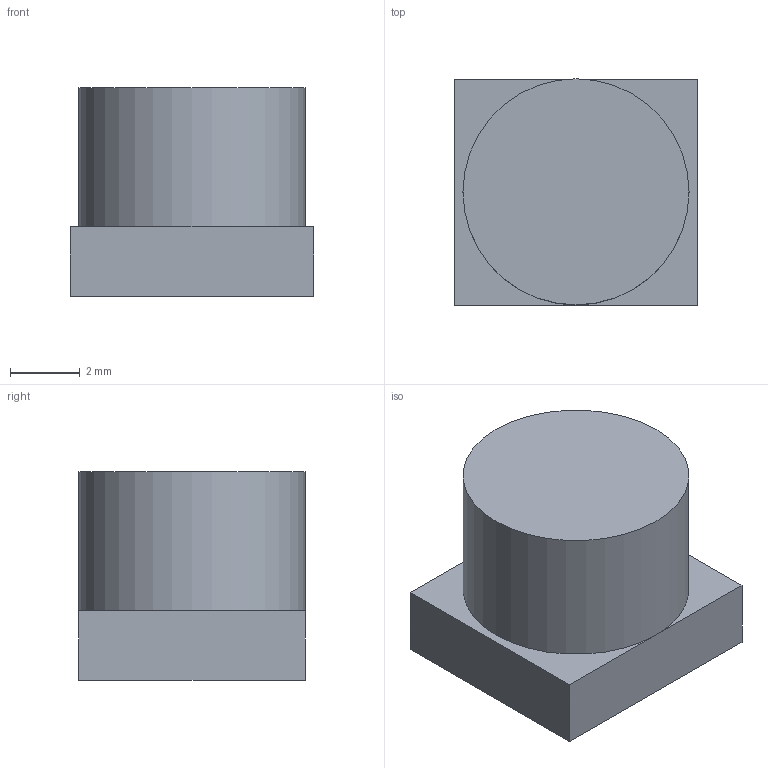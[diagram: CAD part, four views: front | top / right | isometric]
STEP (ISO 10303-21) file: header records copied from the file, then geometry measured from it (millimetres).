
FILE_DESCRIPTION(/* description */ ('STEP AP242 Edition 2','CAx-IF Rec.Pracs.---Representation and Presentation of Product Manufacturing Information (PMI)---4.0---2014-10-13','CAx-IF Rec.Pracs.---3D Tessellated Geometry---0.4---2014-09-14','2;1','CAx-IF Rec.Pracs.---User Defined Attributes---1.5---2016-08-15'),/* implementation_level */ '2;1');
FILE_NAME(/* name */ 'Controller - left button 3',/* time_stamp */ '2026-11-08T20:41:34Z',/* author */ (''),/* organization */ (''),/* preprocessor_version */ 'ST-DEVELOPER v20',/* originating_system */ 'ONSHAPE BY PTC INC, 1.223',/* authorisation */ ' ');
FILE_SCHEMA (('AP242_MANAGED_MODEL_BASED_3D_ENGINEERING_MIM_LF { 1 0 10303 442 3 1 4 }'));
Length unit declared in the file: metre
Products named in the file (1): left button 3
Bounding box: 7 x 6.5 x 6 mm (x, y, z)
Volume: 223.7 mm3; surface area: 226.7 mm2
Topology: 1 solids, 1 shells, 9 faces, 19 edges, 12 vertices
Faces by surface type: plane 8, cylinder 1
Full cylindrical faces by diameter (mm): 6.5 x1
Entity records: 248 total; most frequent: DIRECTION 40, CARTESIAN_POINT 38, ORIENTED_EDGE 34, EDGE_CURVE 17, LINE 14, VECTOR 14, AXIS2_PLACEMENT_3D 13, VERTEX_POINT 11
